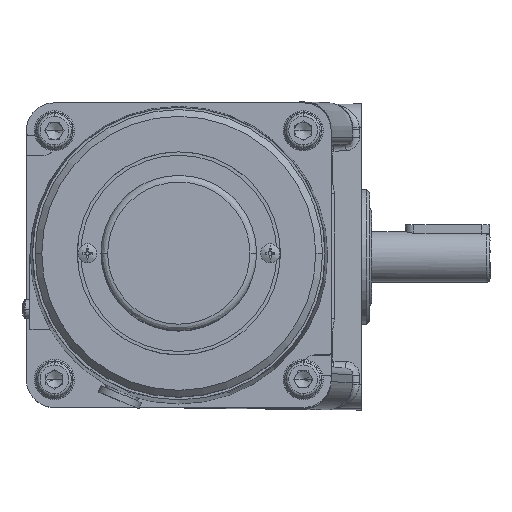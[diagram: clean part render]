
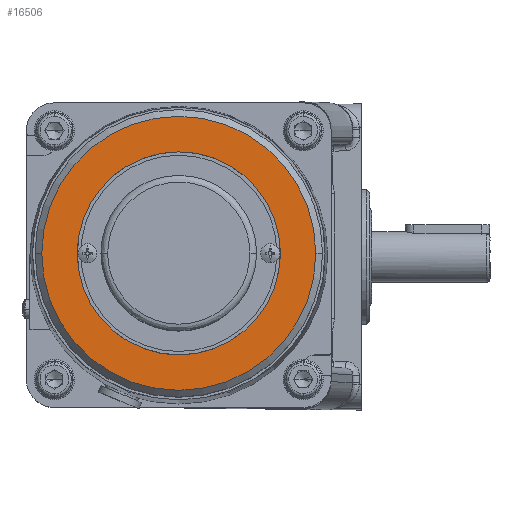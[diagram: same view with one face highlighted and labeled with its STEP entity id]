
A CAD part, front view. The second image highlights one B-rep face of the part: STEP entity #16506.
In plain terms, the highlighted planar face has unit normal (0, -1, 0.005) as drawn and (-1, 0, 0) by its records, which use the part's own axes.
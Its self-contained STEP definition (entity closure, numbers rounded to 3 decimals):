
#2382 = CARTESIAN_POINT ( 'NONE',  ( -38.671, -0.635, 153.524 ) ) ;
#4226 = CARTESIAN_POINT ( 'NONE',  ( -38.671, -0.635, 113.024 ) ) ;
#5511 = DIRECTION ( 'NONE',  ( 0., 0., -1. ) ) ;
#8596 = DIRECTION ( 'NONE',  ( 0., 0., 1. ) ) ;
#10823 = AXIS2_PLACEMENT_3D ( 'NONE', #2382, #45949, #8596 ) ;
#10992 = EDGE_CURVE ( 'NONE', #35312, #77066, #46431, .T. ) ;
#12802 = CARTESIAN_POINT ( 'NONE',  ( -38.671, -0.635, 183.524 ) ) ;
#16506 = ADVANCED_FACE ( 'NONE', ( #35092, #34382 ), #75994, .T. ) ;
#16686 = CARTESIAN_POINT ( 'NONE',  ( -38.671, -0.635, 194.024 ) ) ;
#24247 = CARTESIAN_POINT ( 'NONE',  ( -38.671, -0.635, 153.524 ) ) ;
#27232 = EDGE_LOOP ( 'NONE', ( #43671, #54438 ) ) ;
#27447 = CIRCLE ( 'NONE', #42899, 30. ) ;
#29974 = CARTESIAN_POINT ( 'NONE',  ( -38.671, -0.635, 123.524 ) ) ;
#30557 = DIRECTION ( 'NONE',  ( 0., 0., 1. ) ) ;
#34382 = FACE_OUTER_BOUND ( 'NONE', #68429, .T. ) ;
#35092 = FACE_BOUND ( 'NONE', #27232, .T. ) ;
#35312 = VERTEX_POINT ( 'NONE', #16686 ) ;
#38992 = ORIENTED_EDGE ( 'NONE', *, *, #64261, .F. ) ;
#39216 = AXIS2_PLACEMENT_3D ( 'NONE', #64396, #64378, #64288 ) ;
#40053 = CIRCLE ( 'NONE', #66077, 40.5 ) ;
#42806 = DIRECTION ( 'NONE',  ( 1., 0., 0. ) ) ;
#42899 = AXIS2_PLACEMENT_3D ( 'NONE', #24247, #68078, #30557 ) ;
#43671 = ORIENTED_EDGE ( 'NONE', *, *, #68146, .T. ) ;
#45255 = ORIENTED_EDGE ( 'NONE', *, *, #10992, .F. ) ;
#45949 = DIRECTION ( 'NONE',  ( 1., 0., 0. ) ) ;
#46431 = CIRCLE ( 'NONE', #39216, 40.5 ) ;
#49328 = EDGE_CURVE ( 'NONE', #54801, #61956, #27447, .T. ) ;
#54438 = ORIENTED_EDGE ( 'NONE', *, *, #49328, .T. ) ;
#54801 = VERTEX_POINT ( 'NONE', #29974 ) ;
#55497 = CIRCLE ( 'NONE', #10823, 30. ) ;
#61956 = VERTEX_POINT ( 'NONE', #12802 ) ;
#64261 = EDGE_CURVE ( 'NONE', #77066, #35312, #40053, .T. ) ;
#64288 = DIRECTION ( 'NONE',  ( 0., 0., -1. ) ) ;
#64378 = DIRECTION ( 'NONE',  ( 1., 0., 0. ) ) ;
#64396 = CARTESIAN_POINT ( 'NONE',  ( -38.671, -0.635, 153.524 ) ) ;
#66077 = AXIS2_PLACEMENT_3D ( 'NONE', #79846, #42806, #5511 ) ;
#68078 = DIRECTION ( 'NONE',  ( 1., 0., 0. ) ) ;
#68146 = EDGE_CURVE ( 'NONE', #61956, #54801, #55497, .T. ) ;
#68429 = EDGE_LOOP ( 'NONE', ( #38992, #45255 ) ) ;
#75446 = DIRECTION ( 'NONE',  ( 0., 0., 1. ) ) ;
#75544 = DIRECTION ( 'NONE',  ( -1., 0., 0. ) ) ;
#75641 = CARTESIAN_POINT ( 'NONE',  ( -38.671, 29.365, 153.524 ) ) ;
#75994 = PLANE ( 'NONE',  #78201 ) ;
#77066 = VERTEX_POINT ( 'NONE', #4226 ) ;
#78201 = AXIS2_PLACEMENT_3D ( 'NONE', #75641, #75544, #75446 ) ;
#79846 = CARTESIAN_POINT ( 'NONE',  ( -38.671, -0.635, 153.524 ) ) ;
